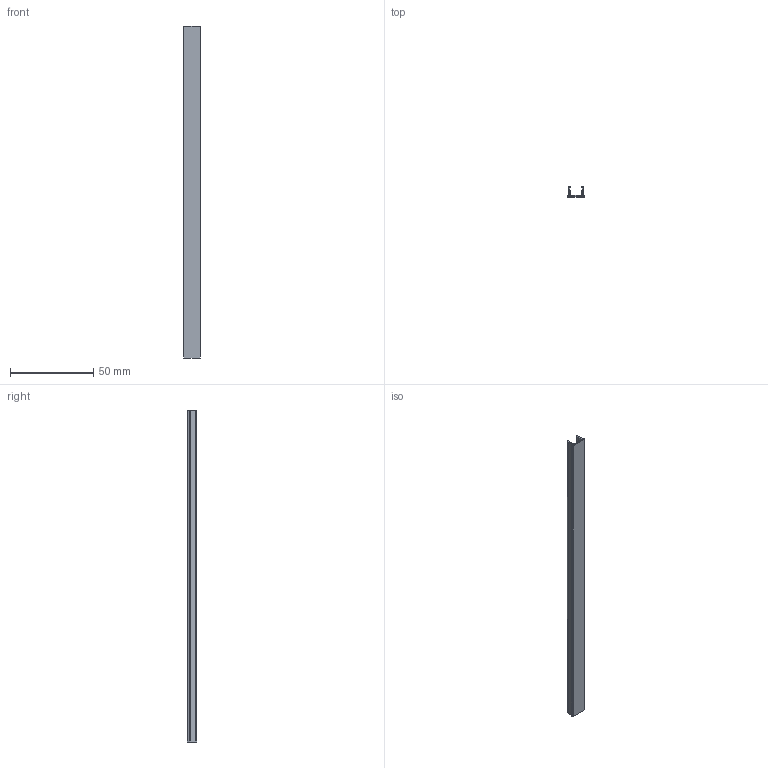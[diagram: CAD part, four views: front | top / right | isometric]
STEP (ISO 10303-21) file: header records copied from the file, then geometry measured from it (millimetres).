
FILE_DESCRIPTION (( 'STEP AP214' ), '1' );
FILE_NAME ('4038.STEP', '2015-05-11T06:28:46', ( '' ), ( '' ), 'SwSTEP 2.0', 'SolidWorks 2014', '' );
FILE_SCHEMA (( 'AUTOMOTIVE_DESIGN' ));
Length unit declared in the file: millimetre
Products named in the file (1): 4038
Bounding box: 10.2 x 6 x 200 mm (x, y, z)
Volume: 4019.2 mm3; surface area: 8391.4 mm2
Topology: 1 solids, 1 shells, 75 faces, 186 edges, 109 vertices
Faces by surface type: cylinder 36, plane 18, torus 17, bspline 2, sphere 2
Entity records: 2266 total; most frequent: CARTESIAN_POINT 425, DIRECTION 420, ORIENTED_EDGE 364, EDGE_CURVE 182, AXIS2_PLACEMENT_3D 168, VERTEX_POINT 109, CIRCLE 94, LINE 84
